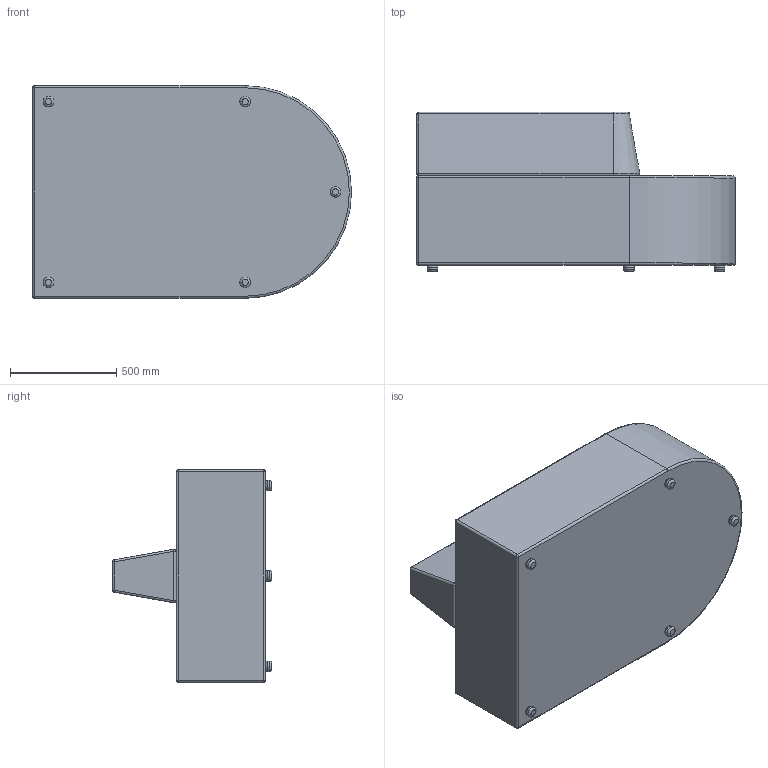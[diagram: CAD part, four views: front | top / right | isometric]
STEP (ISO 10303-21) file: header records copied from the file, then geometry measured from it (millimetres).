
FILE_DESCRIPTION(/* description */ (''),/* implementation_level */ '2;1');
FILE_NAME(/* name */ 'Tango Straight.step',/* time_stamp */ '2024-10-02T15:11:22+13:00',/* author */ (''),/* organization */ (''),/* preprocessor_version */ 'ST-DEVELOPER v20',/* originating_system */ 'Autodesk Translation Framework v13.20.0.188',/* authorisation */ '');
FILE_SCHEMA (('AUTOMOTIVE_DESIGN { 1 0 10303 214 3 1 1 }'));
Length unit declared in the file: millimetre
Products named in the file (4): Tango Straight; Back; Feet; Seat
Assembly tree (3 placements, depth 2):
  Tango Straight
    Back
    Feet
    Seat
Bounding box: 1500 x 750 x 1000 mm (x, y, z)
Volume: 646126308 mm3; surface area: 5804907.4 mm2
Topology: 7 solids, 7 shells, 65 faces, 121 edges, 70 vertices
Faces by surface type: cylinder 22, plane 20, torus 14, sphere 8, cone 1
Full cylindrical faces by diameter (mm): 50 x5
Entity records: 1753 total; most frequent: DIRECTION 345, CARTESIAN_POINT 263, ORIENTED_EDGE 242, AXIS2_PLACEMENT_3D 152, EDGE_CURVE 121, CIRCLE 80, VERTEX_POINT 70, FACE_OUTER_BOUND 65
